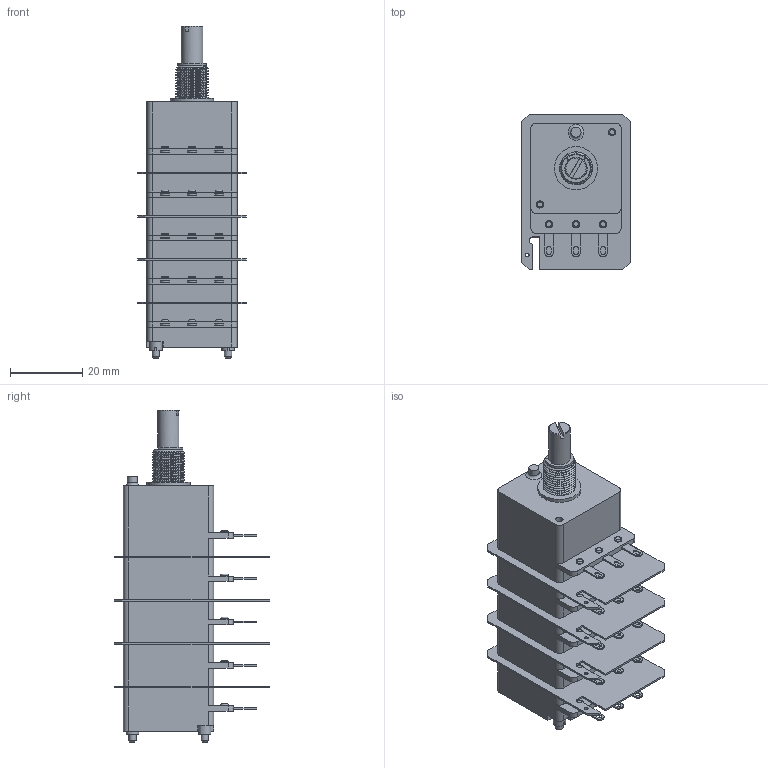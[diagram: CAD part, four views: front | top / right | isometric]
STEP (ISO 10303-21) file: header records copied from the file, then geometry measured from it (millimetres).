
FILE_DESCRIPTION(('FreeCAD Model'),'2;1');
FILE_NAME('Open CASCADE Shape Model','2026-07-15T09:30:30',(''),(''), 'Open CASCADE STEP processor 7.8','FreeCAD','Unknown');
FILE_SCHEMA(('AUTOMOTIVE_DESIGN { 1 0 10303 214 1 1 1 1 }'));
Length unit declared in the file: millimetre
Products named in the file (1): 5CP25XX-S-6S20
Bounding box: 30 x 43 x 92 mm (x, y, z)
Volume: 45138.7 mm3; surface area: 18700.5 mm2
Topology: 1 solids, 38 shells, 598 faces, 1371 edges, 905 vertices
Faces by surface type: plane 343, cylinder 192, bspline 38, torus 19, cone 6
Full cylindrical faces by diameter (mm): 1 x4, 1.9 x2, 2 x39, 2.2 x26, 2.5 x4, 2.8 x1, 3.5 x2, 4.4 x1, 4.5 x5, 5.4 x1, 6 x1, 6.05 x1, 8 x1, 9 x4, 12 x1
Entity records: 22558 total; most frequent: CARTESIAN_POINT 7251, DIRECTION 2879, ORIENTED_EDGE 2740, EDGE_CURVE 1370, AXIS2_PLACEMENT_3D 1062, VERTEX_POINT 905, LINE 755, VECTOR 755
